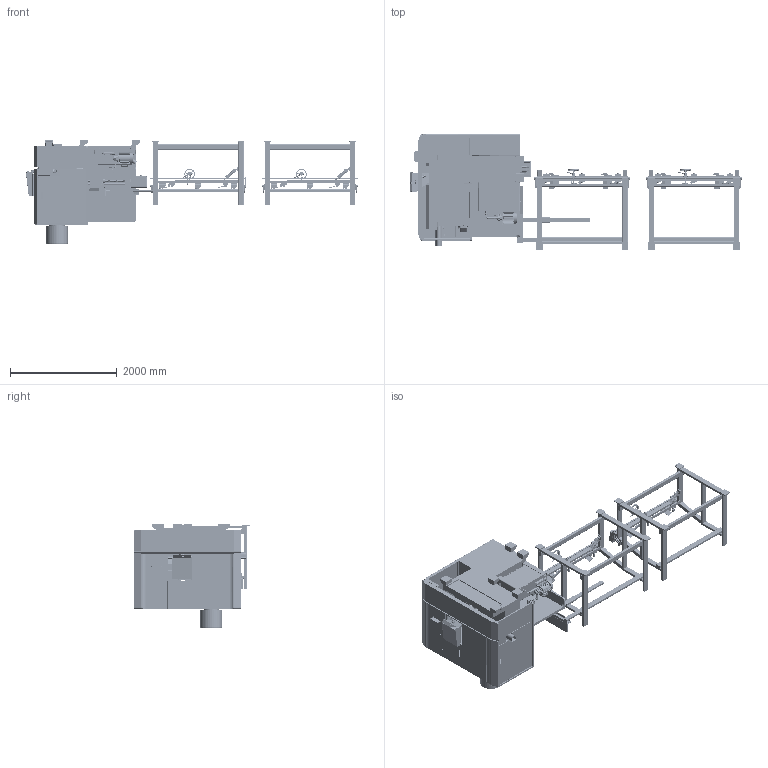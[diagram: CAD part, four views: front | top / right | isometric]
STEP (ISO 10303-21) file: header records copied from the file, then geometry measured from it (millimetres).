
FILE_DESCRIPTION (( 'STEP AP203' ), '1' );
FILE_NAME ('HCS-80 Defeatured.STEP', '2026-04-02T23:32:06', ( '' ), ( '' ), 'SwSTEP 2.0', 'SolidWorks 2025', '' );
FILE_SCHEMA (( 'CONFIG_CONTROL_DESIGN' ));
Products named in the file (9): Roller Work Table 2; Material Feed Vise; Base Casting; Auger; Roller Work Table; Parts Chute; Enclosure; Blade Feed System; HCS-80 Defeatured
Assembly tree (8 placements, depth 2):
  HCS-80 Defeatured
    Base Casting
    Enclosure
    Blade Feed System
    Parts Chute
    Material Feed Vise
    Roller Work Table
    Roller Work Table 2
    Auger
Bounding box: 6209.22 x 2168.23 x 1938 mm (x, y, z)
Volume: 1097816613 mm3; surface area: 77610598.6 mm2
Topology: 124 solids, 134 shells, 10701 faces, 26845 edges, 16452 vertices
Faces by surface type: plane 5323, cylinder 3827, torus 600, bspline 448, cone 315, sphere 188
Entity records: 385509 total; most frequent: CARTESIAN_POINT 131488, ORIENTED_EDGE 53256, DIRECTION 52732, EDGE_CURVE 26628, AXIS2_PLACEMENT_3D 18203, VERTEX_POINT 16430, LINE 16326, VECTOR 16326
